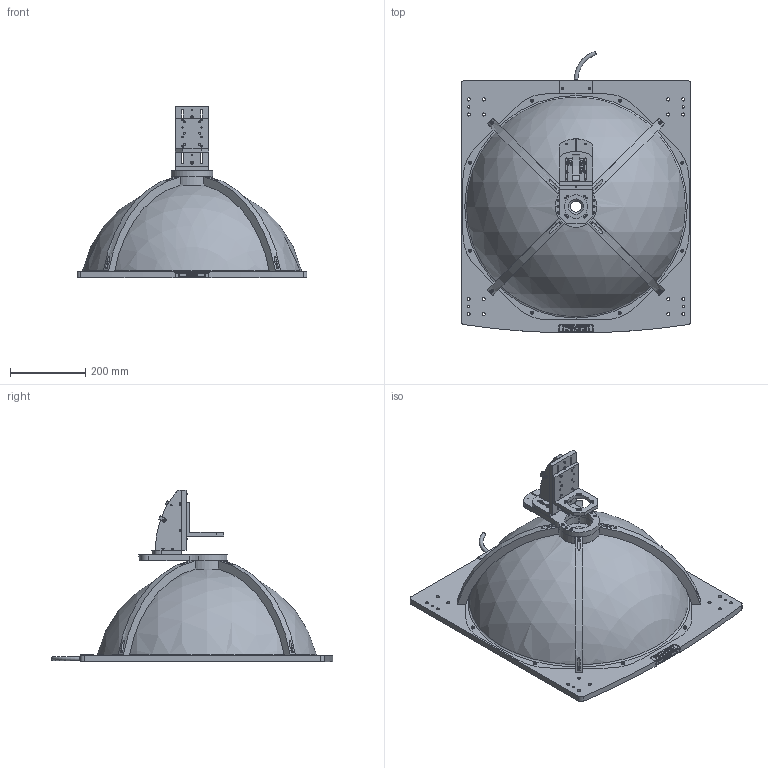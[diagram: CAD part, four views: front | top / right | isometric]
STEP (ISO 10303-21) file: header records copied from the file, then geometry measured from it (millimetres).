
FILE_DESCRIPTION(/* description */ (''),/* implementation_level */ '2;1');
FILE_NAME(/* name */ '\\sac-vision.com\daten\RedirectedFolders\ml\Desktop\Cognex Export trevista M\Baugruppen Jeremy Kaplan\trevista CYLINDER 200.4.stp',/* time_stamp */ '2023-02-07T08:38:35+01:00',/* author */ ('ml'),/* organization */ (''),/* preprocessor_version */ 'ST-DEVELOPER v17.2',/* originating_system */ 'Autodesk Inventor 2019',/* authorisation */ '');
FILE_SCHEMA (('CONFIG_CONTROL_DESIGN'));
Length unit declared in the file: millimetre
Products named in the file (24): trevista 200.4; 23035-001-40; 23035-008-40; CA09M30-NA_M2_5; CAB-00792; 23035-006-30; 23034-008-30; 23035-002-31; 0323033004003d03; ISO 10642 - M3 x  8; ISO 2009 - M2,5 x 8; K03S00100A; 0323036001303d00; 0323036002303d00; 0323036003303d00; 032800099998ML00; ISO 8735 - 6 x 24 - B; 23036-008-30; ISO 7092 - ST 4 - 140 HV; ISO 4762 - M4 x 20; ISO 8734 - 4 x 28 - A; ISO 4762 - M4 x 16; ISO 4762 - M4 x 12; 23036-010-30
Assembly tree (87 placements, depth 3):
  trevista 200.4
    23035-001-40
    23035-008-40
    CA09M30-NA_M2_5
    CAB-00792
    23035-006-30
    23034-008-30
    23035-002-31  x4
    0323033004003d03
    ISO 4762 - M4 x 20  x8
    ISO 7092 - ST 4 - 140 HV  x8
    ISO 4762 - M4 x 16  x8
    ISO 10642 - M3 x  8  x2
    ISO 2009 - M2,5 x 8  x4
    K03S00100A
      0323036001303d00
      0323036002303d00
      ISO 4762 - M4 x 16  x10
      0323036003303d00
      ISO 8734 - 4 x 28 - A  x6
      ISO 4762 - M4 x 20  x8
      ISO 7092 - ST 4 - 140 HV  x8
      032800099998ML00  x3
      ISO 8735 - 6 x 24 - B  x2
      23036-008-30
      ISO 4762 - M4 x 12  x3
      23036-010-30
Bounding box: 610 x 747.58 x 456 mm (x, y, z)
Volume: 7874495.9 mm3; surface area: 2014210.9 mm2
Topology: 86 solids, 86 shells, 1856 faces, 5048 edges, 3477 vertices
Faces by surface type: plane 927, cylinder 607, cone 151, bspline 109, torus 52, sphere 10
Full cylindrical faces by diameter (mm): 1.948 x4, 2.013 x48, 2.459 x2, 2.5 x8, 2.9 x4, 3 x2, 3.242 x50, 3.243 x2, 3.4 x2, 3.8 x1, 4 x64, 4.3 x34, 4.4 x6, 4.5 x18, 5 x2, 5.4 x4, 5.54 x2, 6 x12, 7 x46, 8 x26, 8.376 x16, 10 x1, 15 x16, 62 x1, 75 x3, 362 x1, 364 x1
Entity records: 40733 total; most frequent: CARTESIAN_POINT 8594, DIRECTION 6413, ORIENTED_EDGE 6412, EDGE_CURVE 3206, AXIS2_PLACEMENT_3D 2358, VERTEX_POINT 2226, LINE 1697, VECTOR 1697
